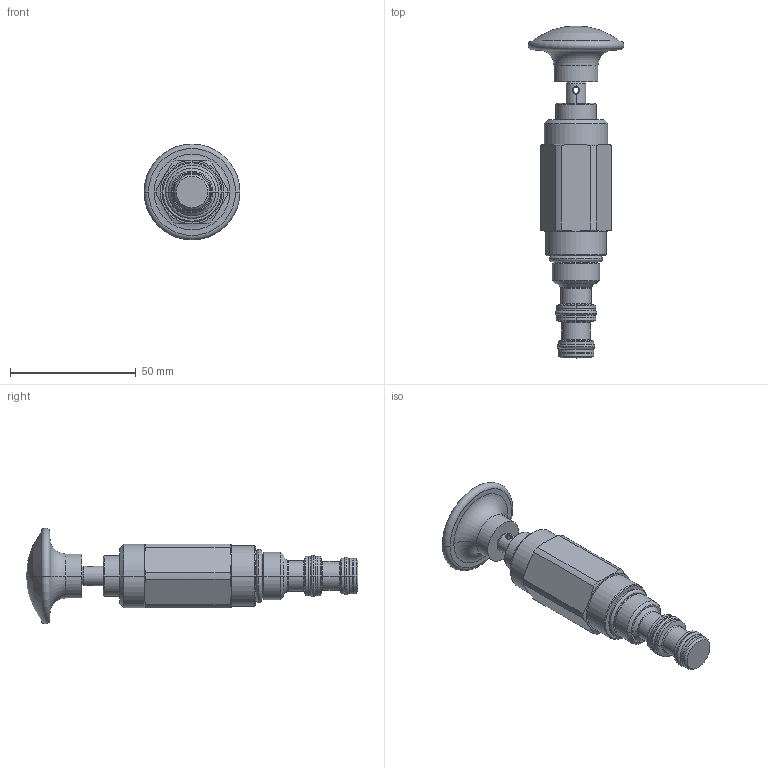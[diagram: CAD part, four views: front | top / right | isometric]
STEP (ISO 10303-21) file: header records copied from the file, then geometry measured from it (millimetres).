
FILE_DESCRIPTION((''),'2;1');
FILE_NAME('MP08-3XK','2009-02-04T',('jcs'),(''),'PRO/ENGINEER BY PARAMETRIC TECHNOLOGY CORPORATION, 2008010','PRO/ENGINEER BY PARAMETRIC TECHNOLOGY CORPORATION, 2008010','');
FILE_SCHEMA(('CONFIG_CONTROL_DESIGN'));
Length unit declared in the file: inch
Products named in the file (1): MP08-3XK
Bounding box: 38.1 x 131.88 x 38.1 mm (x, y, z)
Volume: 47578.5 mm3; surface area: 12723.9 mm2
Topology: 4 solids, 4 shells, 158 faces, 339 edges, 197 vertices
Faces by surface type: cylinder 46, cone 37, plane 25, torus 24, revolution 24, sphere 2
Entity records: 4881 total; most frequent: CARTESIAN_POINT 1352, DIRECTION 789, ORIENTED_EDGE 674, AXIS2_PLACEMENT_3D 340, EDGE_CURVE 337, CIRCLE 206, VERTEX_POINT 197, EDGE_LOOP 176
